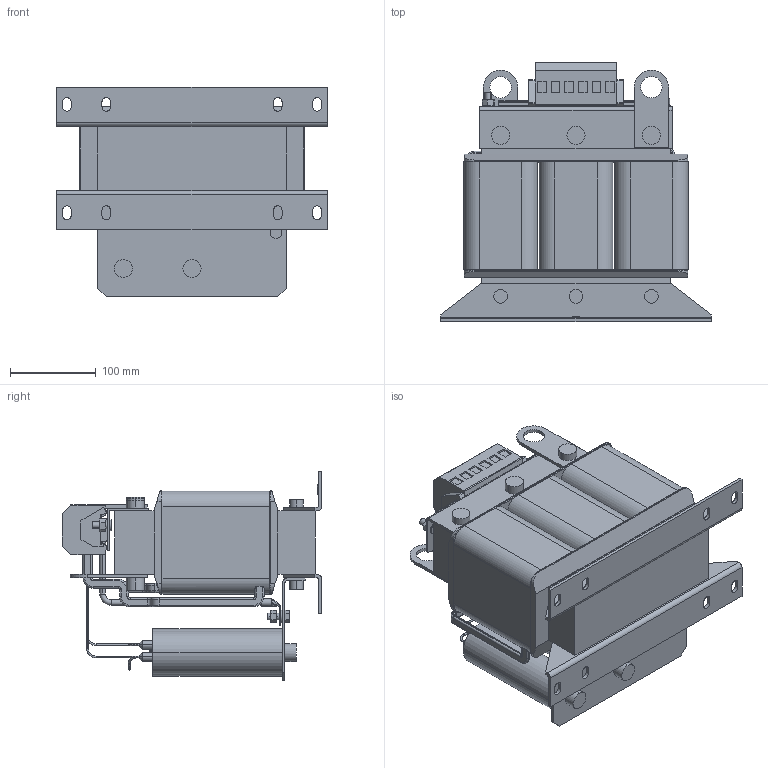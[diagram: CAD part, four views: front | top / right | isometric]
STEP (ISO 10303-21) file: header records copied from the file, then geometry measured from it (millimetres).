
FILE_DESCRIPTION (( 'STEP AP214' ), '1' );
FILE_NAME ('00Z1GX4-0119.STEP', '2025-01-15T13:21:12', ( '' ), ( '' ), 'SwSTEP 2.0', 'SolidWorks 2022', '' );
FILE_SCHEMA (( 'AUTOMOTIVE_DESIGN' ));
Length unit declared in the file: millimetre
Products named in the file (1): 00Z1GX4-0119
Bounding box: 316 x 302.8 x 244.5 mm (x, y, z)
Volume: 7237410.4 mm3; surface area: 577701.5 mm2
Topology: 1 solids, 7 shells, 1518 faces, 3969 edges, 2513 vertices
Faces by surface type: plane 853, cylinder 436, torus 176, bspline 31, cone 22
Entity records: 48557 total; most frequent: CARTESIAN_POINT 10471, ORIENTED_EDGE 7938, DIRECTION 7895, EDGE_CURVE 3969, AXIS2_PLACEMENT_3D 2640, VECTOR 2615, LINE 2615, VERTEX_POINT 2513
